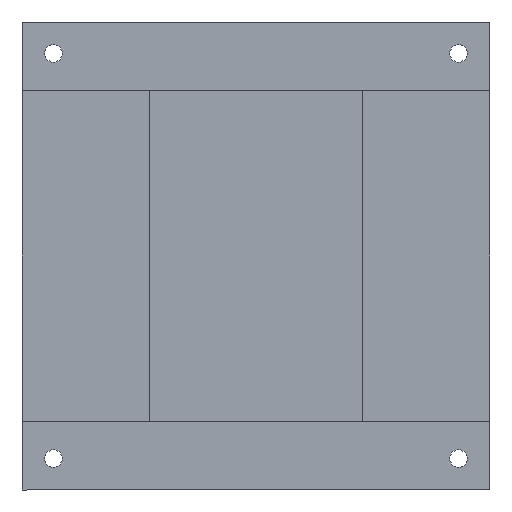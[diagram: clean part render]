
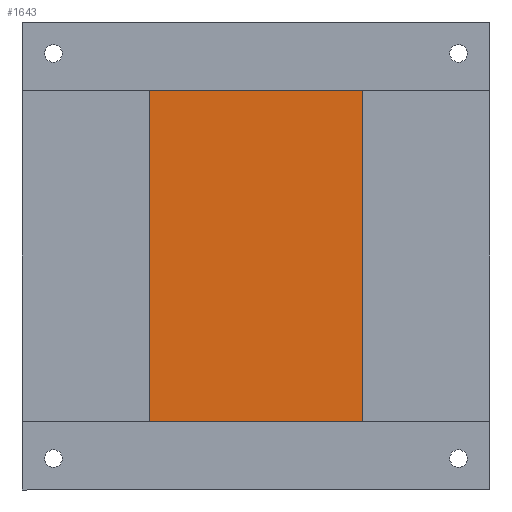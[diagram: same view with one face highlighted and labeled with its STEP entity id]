
A CAD part, front view. The second image highlights one B-rep face of the part: STEP entity #1643.
In plain terms, the highlighted planar face has unit normal (0, -1, 0).
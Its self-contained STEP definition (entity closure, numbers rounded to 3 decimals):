
#20 = VERTEX_POINT ( 'NONE', #241 ) ;
#68 = ORIENTED_EDGE ( 'NONE', *, *, #1793, .T. ) ;
#209 = LINE ( 'NONE', #210, #211 ) ;
#210 = CARTESIAN_POINT ( 'NONE',  ( 15.22, 1.6, 33.5 ) ) ;
#211 = VECTOR ( 'NONE', #212, 1000. ) ;
#212 = DIRECTION ( 'NONE',  ( 0., 0., -1. ) ) ;
#235 = EDGE_CURVE ( 'NONE', #1778, #1549, #1050, .T. ) ;
#241 = CARTESIAN_POINT ( 'NONE',  ( 15.22, 1.6, -33.5 ) ) ;
#361 = LINE ( 'NONE', #362, #363 ) ;
#362 = CARTESIAN_POINT ( 'NONE',  ( -15.22, 1.6, -33.5 ) ) ;
#363 = VECTOR ( 'NONE', #364, 1000. ) ;
#364 = DIRECTION ( 'NONE',  ( 1., 0., 0. ) ) ;
#392 = ORIENTED_EDGE ( 'NONE', *, *, #235, .F. ) ;
#635 = CARTESIAN_POINT ( 'NONE',  ( 15.22, 1.6, 33.5 ) ) ;
#636 = CARTESIAN_POINT ( 'NONE',  ( -15.22, 1.6, -33.5 ) ) ;
#670 = VERTEX_POINT ( 'NONE', #636 ) ;
#688 = CARTESIAN_POINT ( 'NONE',  ( -15.22, 1.6, 33.5 ) ) ;
#837 = LINE ( 'NONE', #838, #839 ) ;
#838 = CARTESIAN_POINT ( 'NONE',  ( -15.22, 1.6, 33.5 ) ) ;
#839 = VECTOR ( 'NONE', #840, 1000. ) ;
#840 = DIRECTION ( 'NONE',  ( 0., 0., -1. ) ) ;
#905 = ORIENTED_EDGE ( 'NONE', *, *, #976, .F. ) ;
#976 = EDGE_CURVE ( 'NONE', #1549, #20, #209, .T. ) ;
#1021 = FACE_OUTER_BOUND ( 'NONE', #1610, .T. ) ;
#1022 = PLANE ( 'NONE',  #1023 ) ;
#1023 = AXIS2_PLACEMENT_3D ( 'NONE', #1024, #1025, #1026 ) ;
#1024 = CARTESIAN_POINT ( 'NONE',  ( -15.22, 1.6, 33.5 ) ) ;
#1025 = DIRECTION ( 'NONE',  ( 0., 1., 0. ) ) ;
#1026 = DIRECTION ( 'NONE',  ( -1., 0., 0. ) ) ;
#1050 = LINE ( 'NONE', #1051, #1052 ) ;
#1051 = CARTESIAN_POINT ( 'NONE',  ( -15.22, 1.6, 33.5 ) ) ;
#1052 = VECTOR ( 'NONE', #1053, 1000. ) ;
#1053 = DIRECTION ( 'NONE',  ( 1., 0., 0. ) ) ;
#1409 = EDGE_CURVE ( 'NONE', #670, #20, #361, .T. ) ;
#1541 = ORIENTED_EDGE ( 'NONE', *, *, #1409, .T. ) ;
#1549 = VERTEX_POINT ( 'NONE', #635 ) ;
#1610 = EDGE_LOOP ( 'NONE', ( #1541, #905, #392, #68 ) ) ;
#1643 = ADVANCED_FACE ( 'NONE', ( #1021 ), #1022, .F. ) ;
#1778 = VERTEX_POINT ( 'NONE', #688 ) ;
#1793 = EDGE_CURVE ( 'NONE', #1778, #670, #837, .T. ) ;
